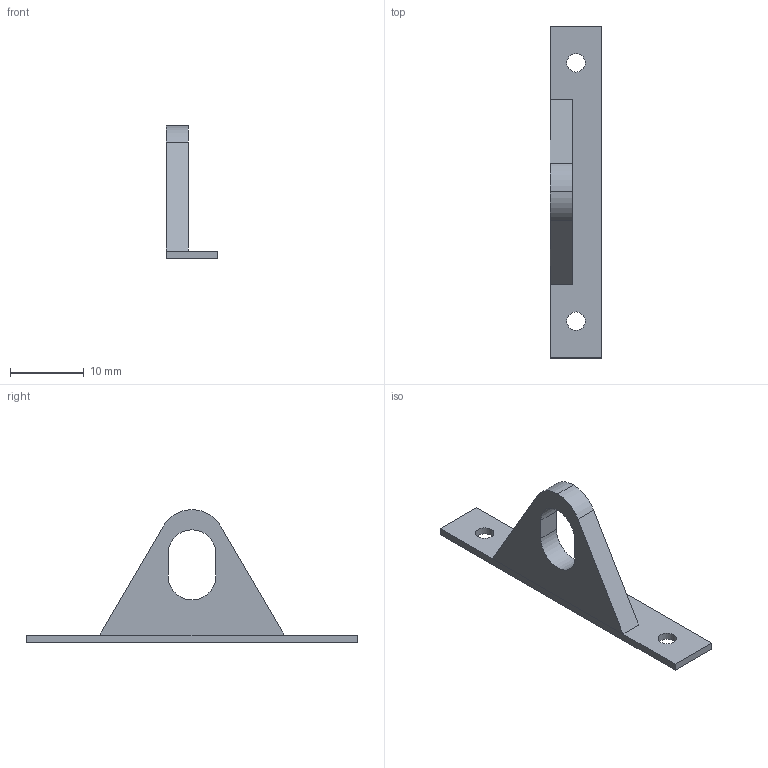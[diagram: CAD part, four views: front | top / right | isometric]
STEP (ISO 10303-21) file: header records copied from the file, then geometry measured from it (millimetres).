
FILE_DESCRIPTION(('FreeCAD Model'),'2;1');
FILE_NAME('E:/CAD Designs/Garmin/Final/CAD files/STEP/wheel_mount.step', '2021-02-27T13:01:40',('Author'),(''), 'Open CASCADE STEP processor 7.3','FreeCAD','Unknown');
FILE_SCHEMA(('AUTOMOTIVE_DESIGN { 1 0 10303 214 1 1 1 1 }'));
Length unit declared in the file: millimetre
Products named in the file (1): Body
Bounding box: 7 x 45 x 18 mm (x, y, z)
Volume: 910 mm3; surface area: 1268.3 mm2
Topology: 1 solids, 1 shells, 18 faces, 46 edges, 30 vertices
Faces by surface type: plane 12, cylinder 6
Full cylindrical faces by diameter (mm): 2.5 x2
Entity records: 1189 total; most frequent: CARTESIAN_POINT 211, DIRECTION 184, LINE 114, VECTOR 114, ORIENTED_EDGE 92, PCURVE 92, DEFINITIONAL_REPRESENTATION 92, EDGE_CURVE 46
